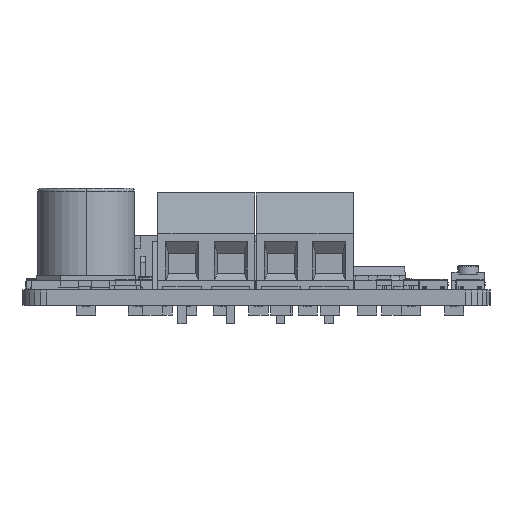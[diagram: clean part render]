
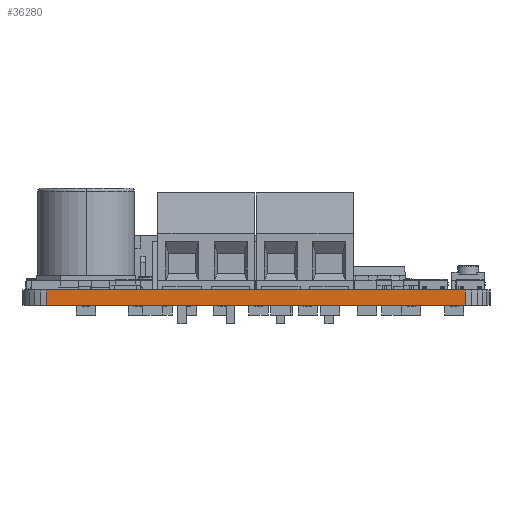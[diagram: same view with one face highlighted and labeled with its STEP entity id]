
A CAD part, left-side view. The second image highlights one B-rep face of the part: STEP entity #36280.
In plain terms, the highlighted planar face has unit normal (-1, 0, 0).
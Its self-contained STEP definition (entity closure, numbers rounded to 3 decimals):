
#936 = CARTESIAN_POINT ( 'NONE',  ( 0., 45.72, 1.6 ) ) ;
#5075 = ORIENTED_EDGE ( 'NONE', *, *, #8043, .T. ) ;
#6777 = CARTESIAN_POINT ( 'NONE',  ( 0., 45.72, 0. ) ) ;
#7182 = CARTESIAN_POINT ( 'NONE',  ( 0., 45.72, 1.6 ) ) ;
#7778 = PLANE ( 'NONE',  #60000 ) ;
#8043 = EDGE_CURVE ( 'NONE', #86001, #65808, #41661, .T. ) ;
#13618 = ORIENTED_EDGE ( 'NONE', *, *, #66324, .T. ) ;
#15006 = VERTEX_POINT ( 'NONE', #49649 ) ;
#17377 = DIRECTION ( 'NONE',  ( 0., 0., -1. ) ) ;
#20416 = DIRECTION ( 'NONE',  ( 0., 0., -1. ) ) ;
#20595 = DIRECTION ( 'NONE',  ( 0., -1., 0. ) ) ;
#20747 = VERTEX_POINT ( 'NONE', #936 ) ;
#24527 = CARTESIAN_POINT ( 'NONE',  ( 0., 2.54, 0. ) ) ;
#26212 = ORIENTED_EDGE ( 'NONE', *, *, #36432, .F. ) ;
#36280 = ADVANCED_FACE ( 'NONE', ( #55529 ), #7778, .F. ) ;
#36432 = EDGE_CURVE ( 'NONE', #15006, #65808, #55440, .T. ) ;
#37436 = VECTOR ( 'NONE', #49934, 1000. ) ;
#41631 = DIRECTION ( 'NONE',  ( 1., 0., 0. ) ) ;
#41661 = LINE ( 'NONE', #6777, #50172 ) ;
#43919 = VECTOR ( 'NONE', #17377, 1000. ) ;
#49649 = CARTESIAN_POINT ( 'NONE',  ( 0., 2.54, 1.6 ) ) ;
#49934 = DIRECTION ( 'NONE',  ( 0., 0., -1. ) ) ;
#50172 = VECTOR ( 'NONE', #72782, 1000. ) ;
#52309 = LINE ( 'NONE', #79127, #82687 ) ;
#55440 = LINE ( 'NONE', #76663, #37436 ) ;
#55529 = FACE_OUTER_BOUND ( 'NONE', #84477, .T. ) ;
#60000 = AXIS2_PLACEMENT_3D ( 'NONE', #7182, #41631, #20416 ) ;
#60837 = LINE ( 'NONE', #70779, #43919 ) ;
#65808 = VERTEX_POINT ( 'NONE', #24527 ) ;
#66324 = EDGE_CURVE ( 'NONE', #20747, #86001, #60837, .T. ) ;
#70779 = CARTESIAN_POINT ( 'NONE',  ( 0., 45.72, 1.6 ) ) ;
#72782 = DIRECTION ( 'NONE',  ( 0., -1., 0. ) ) ;
#76663 = CARTESIAN_POINT ( 'NONE',  ( 0., 2.54, 1.6 ) ) ;
#77735 = EDGE_CURVE ( 'NONE', #20747, #15006, #52309, .T. ) ;
#78986 = ORIENTED_EDGE ( 'NONE', *, *, #77735, .F. ) ;
#79127 = CARTESIAN_POINT ( 'NONE',  ( 0., 45.72, 1.6 ) ) ;
#82687 = VECTOR ( 'NONE', #20595, 1000. ) ;
#83368 = CARTESIAN_POINT ( 'NONE',  ( 0., 45.72, 0. ) ) ;
#84477 = EDGE_LOOP ( 'NONE', ( #5075, #26212, #78986, #13618 ) ) ;
#86001 = VERTEX_POINT ( 'NONE', #83368 ) ;
